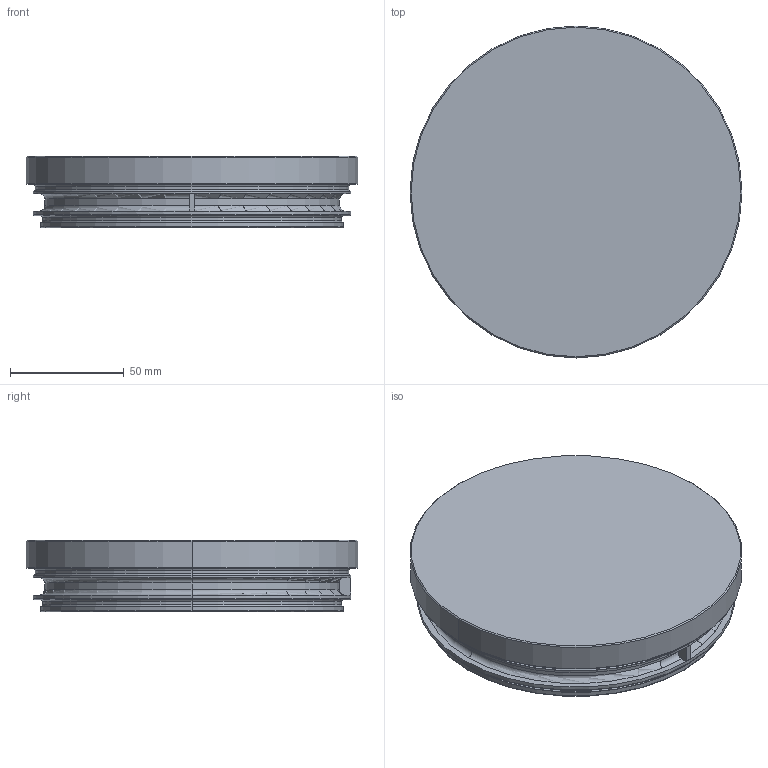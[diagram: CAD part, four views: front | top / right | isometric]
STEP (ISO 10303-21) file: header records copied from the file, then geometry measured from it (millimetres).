
FILE_DESCRIPTION((''),'2;1');
FILE_NAME('RMC-8081','2007-09-24T',('glafferty'),('Pleasant Precision, Inc. (419)675-0556'),'PRO/ENGINEER BY PARAMETRIC TECHNOLOGY CORPORATION, 2006080','PRO/ENGINEER BY PARAMETRIC TECHNOLOGY CORPORATION, 2006080','');
FILE_SCHEMA(('CONFIG_CONTROL_DESIGN'));
Length unit declared in the file: inch
Products named in the file (1): RMC-8081
Bounding box: 146.05 x 146.05 x 31.5 mm (x, y, z)
Volume: 475685 mm3; surface area: 51375.5 mm2
Topology: 1 solids, 1 shells, 48 faces, 104 edges, 60 vertices
Faces by surface type: torus 18, plane 14, cylinder 14, cone 2
Entity records: 1392 total; most frequent: CARTESIAN_POINT 262, DIRECTION 262, ORIENTED_EDGE 208, AXIS2_PLACEMENT_3D 118, EDGE_CURVE 104, CIRCLE 70, VERTEX_POINT 60, EDGE_LOOP 52
